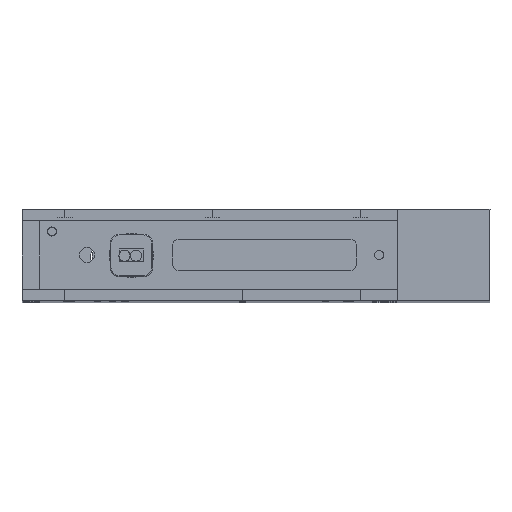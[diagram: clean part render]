
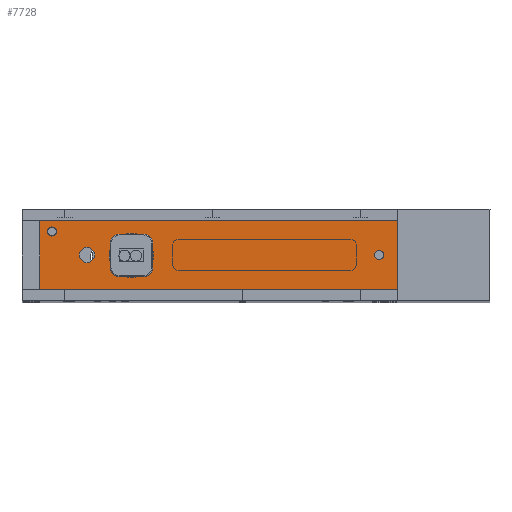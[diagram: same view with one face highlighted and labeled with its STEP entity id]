
A CAD part, top view. The second image highlights one B-rep face of the part: STEP entity #7728.
In plain terms, the highlighted planar face has unit normal (0, 0, 1).
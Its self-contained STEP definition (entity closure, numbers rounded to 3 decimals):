
#51 = EDGE_CURVE ( 'NONE', #4841, #7533, #1551, .T. ) ;
#286 = ORIENTED_EDGE ( 'NONE', *, *, #19812, .T. ) ;
#311 = ORIENTED_EDGE ( 'NONE', *, *, #23122, .T. ) ;
#361 = LINE ( 'NONE', #10010, #4943 ) ;
#388 = ORIENTED_EDGE ( 'NONE', *, *, #1860, .T. ) ;
#798 = DIRECTION ( 'NONE',  ( 0., -1., 0. ) ) ;
#1024 = CARTESIAN_POINT ( 'NONE',  ( 9.3, 54.56, 6.35 ) ) ;
#1248 = ORIENTED_EDGE ( 'NONE', *, *, #51, .T. ) ;
#1551 = CIRCLE ( 'NONE', #19777, 2.067 ) ;
#1602 = CARTESIAN_POINT ( 'NONE',  ( 18.54, 69.467, 6.35 ) ) ;
#1633 = AXIS2_PLACEMENT_3D ( 'NONE', #12454, #3328, #16105 ) ;
#1665 = FACE_OUTER_BOUND ( 'NONE', #11670, .T. ) ;
#1860 = EDGE_CURVE ( 'NONE', #4844, #10575, #361, .T. ) ;
#2117 = CARTESIAN_POINT ( 'NONE',  ( 15.674, 64.898, 6.35 ) ) ;
#2118 = CIRCLE ( 'NONE', #7138, 1.23 ) ;
#2274 = VERTEX_POINT ( 'NONE', #2117 ) ;
#3080 = FACE_BOUND ( 'NONE', #13214, .T. ) ;
#3328 = DIRECTION ( 'NONE',  ( 0., 0., 1. ) ) ;
#4388 = CARTESIAN_POINT ( 'NONE',  ( 9.3, 56.627, 6.35 ) ) ;
#4579 = CIRCLE ( 'NONE', #17508, 1.229 ) ;
#4757 = CARTESIAN_POINT ( 'NONE',  ( 15.674, 66.127, 6.35 ) ) ;
#4841 = VERTEX_POINT ( 'NONE', #16175 ) ;
#4844 = VERTEX_POINT ( 'NONE', #5266 ) ;
#4943 = VECTOR ( 'NONE', #17410, 1000. ) ;
#5033 = DIRECTION ( 'NONE',  ( 0., 0., -1. ) ) ;
#5228 = EDGE_CURVE ( 'NONE', #17795, #10575, #23542, .T. ) ;
#5266 = CARTESIAN_POINT ( 'NONE',  ( 0.1, 69.467, 6.35 ) ) ;
#5726 = CIRCLE ( 'NONE', #7276, 6. ) ;
#5988 = AXIS2_PLACEMENT_3D ( 'NONE', #15112, #18725, #6038 ) ;
#6038 = DIRECTION ( 'NONE',  ( 0., -1., 0. ) ) ;
#6270 = VERTEX_POINT ( 'NONE', #10614 ) ;
#6532 = CARTESIAN_POINT ( 'NONE',  ( 0.1, 69.467, 6.35 ) ) ;
#6611 = DIRECTION ( 'NONE',  ( 0., -1., 0. ) ) ;
#6777 = EDGE_LOOP ( 'NONE', ( #18073, #286 ) ) ;
#6995 = ORIENTED_EDGE ( 'NONE', *, *, #22119, .T. ) ;
#7138 = AXIS2_PLACEMENT_3D ( 'NONE', #19834, #8929, #19680 ) ;
#7276 = AXIS2_PLACEMENT_3D ( 'NONE', #10461, #5033, #23225 ) ;
#7533 = VERTEX_POINT ( 'NONE', #1024 ) ;
#7728 = ADVANCED_FACE ( 'NONE', ( #1665, #17402, #20494, #3080, #9120 ), #18119, .T. ) ;
#8291 = DIRECTION ( 'NONE',  ( -1., 0., 0. ) ) ;
#8417 = EDGE_CURVE ( 'NONE', #17795, #18709, #17657, .T. ) ;
#8756 = CARTESIAN_POINT ( 'NONE',  ( 10.55, -22.373, 6.35 ) ) ;
#8929 = DIRECTION ( 'NONE',  ( 0., 0., -1. ) ) ;
#8999 = CARTESIAN_POINT ( 'NONE',  ( 9.3, 56.627, 6.35 ) ) ;
#9120 = FACE_BOUND ( 'NONE', #13612, .T. ) ;
#9302 = VECTOR ( 'NONE', #15679, 1000. ) ;
#9484 = DIRECTION ( 'NONE',  ( 0., 0., -1. ) ) ;
#9737 = ORIENTED_EDGE ( 'NONE', *, *, #12289, .T. ) ;
#9756 = VERTEX_POINT ( 'NONE', #16533 ) ;
#9985 = EDGE_CURVE ( 'NONE', #4844, #18709, #22092, .T. ) ;
#10010 = CARTESIAN_POINT ( 'NONE',  ( 0.1, 69.467, 6.35 ) ) ;
#10031 = EDGE_LOOP ( 'NONE', ( #6995, #1248 ) ) ;
#10036 = CIRCLE ( 'NONE', #13441, 1.229 ) ;
#10178 = ORIENTED_EDGE ( 'NONE', *, *, #12432, .T. ) ;
#10461 = CARTESIAN_POINT ( 'NONE',  ( 9.2, 44.627, 6.35 ) ) ;
#10575 = VERTEX_POINT ( 'NONE', #13175 ) ;
#10614 = CARTESIAN_POINT ( 'NONE',  ( 15.674, 67.357, 6.35 ) ) ;
#10676 = CIRCLE ( 'NONE', #17726, 2.067 ) ;
#10745 = VERTEX_POINT ( 'NONE', #21107 ) ;
#11350 = VECTOR ( 'NONE', #14600, 1000. ) ;
#11398 = CIRCLE ( 'NONE', #18623, 6. ) ;
#11416 = CARTESIAN_POINT ( 'NONE',  ( 9.2, 44.627, 6.35 ) ) ;
#11670 = EDGE_LOOP ( 'NONE', ( #388, #14527, #20310, #22451 ) ) ;
#11770 = DIRECTION ( 'NONE',  ( 0., 0., -1. ) ) ;
#12289 = EDGE_CURVE ( 'NONE', #10745, #14526, #5726, .T. ) ;
#12432 = EDGE_CURVE ( 'NONE', #6270, #2274, #4579, .T. ) ;
#12454 = CARTESIAN_POINT ( 'NONE',  ( 9.32, 21.047, 6.35 ) ) ;
#12515 = DIRECTION ( 'NONE',  ( 0., -1., 0. ) ) ;
#13175 = CARTESIAN_POINT ( 'NONE',  ( 0.1, -27.373, 6.35 ) ) ;
#13214 = EDGE_LOOP ( 'NONE', ( #311, #10178 ) ) ;
#13285 = CARTESIAN_POINT ( 'NONE',  ( 15.674, 66.127, 6.35 ) ) ;
#13441 = AXIS2_PLACEMENT_3D ( 'NONE', #13285, #9484, #18801 ) ;
#13612 = EDGE_LOOP ( 'NONE', ( #9737, #20793 ) ) ;
#14391 = DIRECTION ( 'NONE',  ( 0., 0., -1. ) ) ;
#14526 = VERTEX_POINT ( 'NONE', #14686 ) ;
#14527 = ORIENTED_EDGE ( 'NONE', *, *, #5228, .F. ) ;
#14600 = DIRECTION ( 'NONE',  ( 0., 1., 0. ) ) ;
#14686 = CARTESIAN_POINT ( 'NONE',  ( 3.2, 44.627, 6.35 ) ) ;
#15112 = CARTESIAN_POINT ( 'NONE',  ( 9.32, -22.373, 6.35 ) ) ;
#15277 = EDGE_CURVE ( 'NONE', #17319, #9756, #23388, .T. ) ;
#15298 = VECTOR ( 'NONE', #8291, 1000. ) ;
#15679 = DIRECTION ( 'NONE',  ( 1., 0., 0. ) ) ;
#16105 = DIRECTION ( 'NONE',  ( 1., 0., 0. ) ) ;
#16175 = CARTESIAN_POINT ( 'NONE',  ( 9.3, 58.694, 6.35 ) ) ;
#16451 = EDGE_CURVE ( 'NONE', #14526, #10745, #11398, .T. ) ;
#16533 = CARTESIAN_POINT ( 'NONE',  ( 8.091, -22.373, 6.35 ) ) ;
#17293 = CARTESIAN_POINT ( 'NONE',  ( 18.54, -27.373, 6.35 ) ) ;
#17319 = VERTEX_POINT ( 'NONE', #8756 ) ;
#17402 = FACE_BOUND ( 'NONE', #6777, .T. ) ;
#17410 = DIRECTION ( 'NONE',  ( 0., -1., 0. ) ) ;
#17508 = AXIS2_PLACEMENT_3D ( 'NONE', #4757, #19355, #6611 ) ;
#17657 = LINE ( 'NONE', #22002, #11350 ) ;
#17726 = AXIS2_PLACEMENT_3D ( 'NONE', #4388, #11770, #798 ) ;
#17795 = VERTEX_POINT ( 'NONE', #17293 ) ;
#18073 = ORIENTED_EDGE ( 'NONE', *, *, #15277, .T. ) ;
#18119 = PLANE ( 'NONE',  #1633 ) ;
#18623 = AXIS2_PLACEMENT_3D ( 'NONE', #11416, #22606, #22441 ) ;
#18709 = VERTEX_POINT ( 'NONE', #1602 ) ;
#18725 = DIRECTION ( 'NONE',  ( 0., 0., -1. ) ) ;
#18801 = DIRECTION ( 'NONE',  ( 0., -1., 0. ) ) ;
#19204 = CARTESIAN_POINT ( 'NONE',  ( 18.54, -27.373, 6.35 ) ) ;
#19355 = DIRECTION ( 'NONE',  ( 0., 0., -1. ) ) ;
#19680 = DIRECTION ( 'NONE',  ( 0., -1., 0. ) ) ;
#19777 = AXIS2_PLACEMENT_3D ( 'NONE', #8999, #14391, #12515 ) ;
#19812 = EDGE_CURVE ( 'NONE', #9756, #17319, #2118, .T. ) ;
#19834 = CARTESIAN_POINT ( 'NONE',  ( 9.32, -22.373, 6.35 ) ) ;
#20310 = ORIENTED_EDGE ( 'NONE', *, *, #8417, .T. ) ;
#20494 = FACE_BOUND ( 'NONE', #10031, .T. ) ;
#20793 = ORIENTED_EDGE ( 'NONE', *, *, #16451, .T. ) ;
#21107 = CARTESIAN_POINT ( 'NONE',  ( 15.2, 44.627, 6.35 ) ) ;
#22002 = CARTESIAN_POINT ( 'NONE',  ( 18.54, -27.373, 6.35 ) ) ;
#22092 = LINE ( 'NONE', #6532, #9302 ) ;
#22119 = EDGE_CURVE ( 'NONE', #7533, #4841, #10676, .T. ) ;
#22441 = DIRECTION ( 'NONE',  ( 0., -1., 0. ) ) ;
#22451 = ORIENTED_EDGE ( 'NONE', *, *, #9985, .F. ) ;
#22606 = DIRECTION ( 'NONE',  ( 0., 0., -1. ) ) ;
#23122 = EDGE_CURVE ( 'NONE', #2274, #6270, #10036, .T. ) ;
#23225 = DIRECTION ( 'NONE',  ( 0., -1., 0. ) ) ;
#23388 = CIRCLE ( 'NONE', #5988, 1.23 ) ;
#23542 = LINE ( 'NONE', #19204, #15298 ) ;
